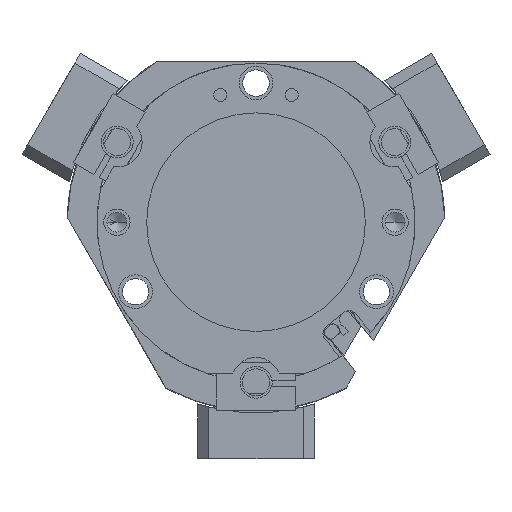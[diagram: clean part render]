
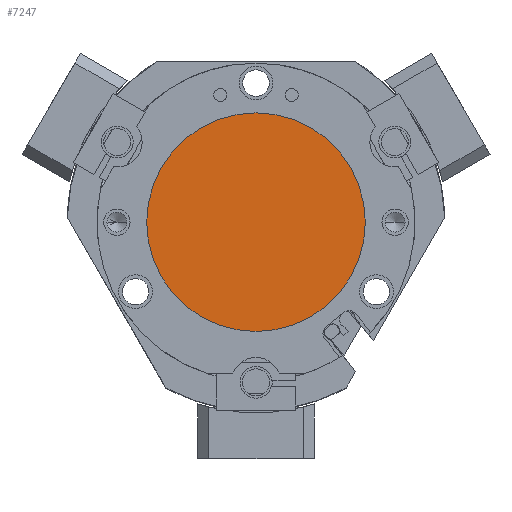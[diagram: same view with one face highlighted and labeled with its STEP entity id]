
A CAD part, front view. The second image highlights one B-rep face of the part: STEP entity #7247.
In plain terms, the highlighted planar face has unit normal (0, -1, 0) as drawn and (0, 1, 0) by its records, which use the part's own axes.
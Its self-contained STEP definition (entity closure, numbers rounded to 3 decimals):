
#472 = CARTESIAN_POINT ( 'NONE',  ( 0., 5., 0. ) ) ;
#1289 = AXIS2_PLACEMENT_3D ( 'NONE', #4178, #13759, #5554 ) ;
#1496 = AXIS2_PLACEMENT_3D ( 'NONE', #7257, #4563, #14132 ) ;
#1858 = DIRECTION ( 'NONE',  ( 0., 0., -1. ) ) ;
#2759 = EDGE_CURVE ( 'NONE', #3493, #16123, #14439, .T. ) ;
#3493 = VERTEX_POINT ( 'NONE', #4392 ) ;
#3654 = ORIENTED_EDGE ( 'NONE', *, *, #16966, .T. ) ;
#4178 = CARTESIAN_POINT ( 'NONE',  ( 0., 5., 0. ) ) ;
#4308 = AXIS2_PLACEMENT_3D ( 'NONE', #472, #10062, #1858 ) ;
#4392 = CARTESIAN_POINT ( 'NONE',  ( 0., 5., -27.5 ) ) ;
#4563 = DIRECTION ( 'NONE',  ( 0., 1., 0. ) ) ;
#5554 = DIRECTION ( 'NONE',  ( 0., 0., -1. ) ) ;
#7247 = ADVANCED_FACE ( 'NONE', ( #13167 ), #10012, .T. ) ;
#7257 = CARTESIAN_POINT ( 'NONE',  ( 0., 5., 0. ) ) ;
#7992 = CARTESIAN_POINT ( 'NONE',  ( 0., 5., 27.5 ) ) ;
#9462 = EDGE_LOOP ( 'NONE', ( #14647, #3654 ) ) ;
#10012 = PLANE ( 'NONE',  #1496 ) ;
#10062 = DIRECTION ( 'NONE',  ( 0., 1., 0. ) ) ;
#13167 = FACE_OUTER_BOUND ( 'NONE', #9462, .T. ) ;
#13759 = DIRECTION ( 'NONE',  ( 0., 1., 0. ) ) ;
#14132 = DIRECTION ( 'NONE',  ( 0., 0., 1. ) ) ;
#14439 = CIRCLE ( 'NONE', #1289, 27.5 ) ;
#14647 = ORIENTED_EDGE ( 'NONE', *, *, #2759, .T. ) ;
#15848 = CIRCLE ( 'NONE', #4308, 27.5 ) ;
#16123 = VERTEX_POINT ( 'NONE', #7992 ) ;
#16966 = EDGE_CURVE ( 'NONE', #16123, #3493, #15848, .T. ) ;
